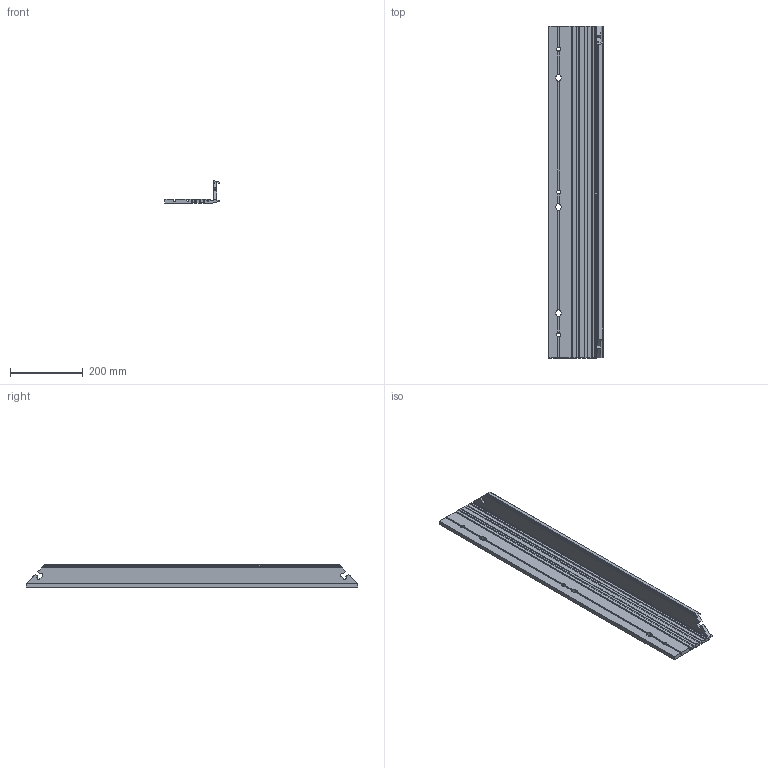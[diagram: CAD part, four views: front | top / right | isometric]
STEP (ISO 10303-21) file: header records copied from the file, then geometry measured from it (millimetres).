
FILE_DESCRIPTION(/* description */ (''),/* implementation_level */ '2;1');
FILE_NAME(/* name */ 'C:\Users\maxzh\Desktop\USBP\03.01.2018\STEP\Part2.stp',/* time_stamp */ '2018-03-01T13:49:04-05:00',/* author */ ('maxzh'),/* organization */ (''),/* preprocessor_version */ 'ST-DEVELOPER v15.6',/* originating_system */ 'Autodesk Inventor 2015',/* authorisation */ '');
FILE_SCHEMA (('AUTOMOTIVE_DESIGN { 1 0 10303 214 3 1 1 }'));
Length unit declared in the file: inch
Products named in the file (1): Part2
Bounding box: 150.23 x 914.4 x 61.98 mm (x, y, z)
Volume: 1725696.3 mm3; surface area: 584464.8 mm2
Topology: 5 solids, 5 shells, 285 faces, 843 edges, 561 vertices
Faces by surface type: cylinder 146, plane 139
Full cylindrical faces by diameter (mm): 10.719 x3
Entity records: 10193 total; most frequent: CARTESIAN_POINT 2465, ORIENTED_EDGE 1650, DIRECTION 1603, EDGE_CURVE 825, VERTEX_POINT 548, AXIS2_PLACEMENT_3D 540, LINE 523, VECTOR 523
